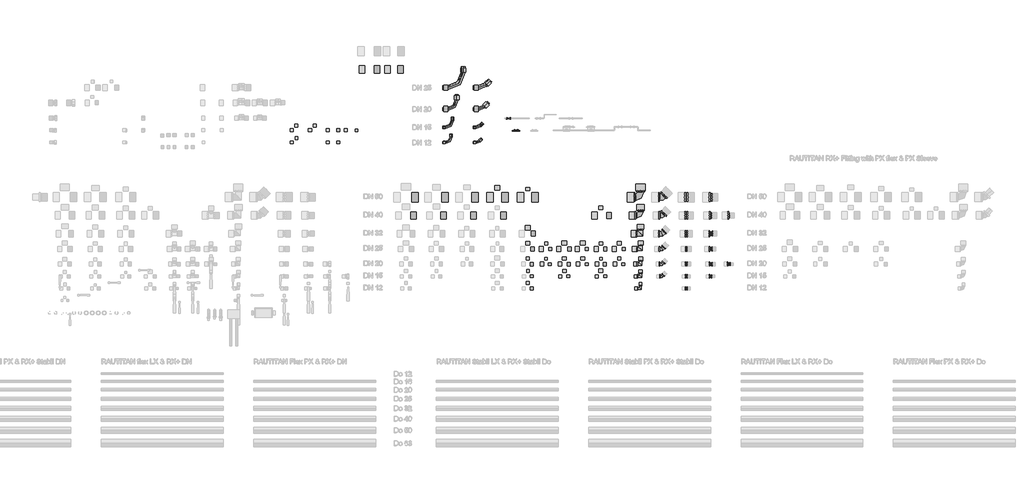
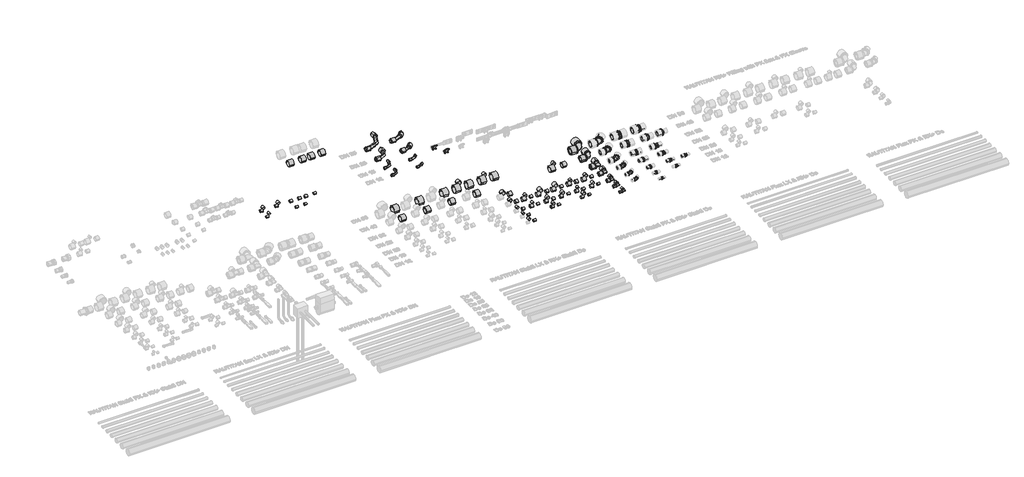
# One storey, part 7 of 18: 136 pipe fittings, 2 proxies.
"""IFC4 building model written with IfcOpenShell, lengths in millimetres."""

from ifc_helpers import new_model, si_unit, origin, place, context, project, spatial, transform, mapped, element, save
from components import mechanical_equipment_31ec48f0, pipe_fitting_37bbe906, pipe_fitting_377b98a1, pipe_fitting_9065546d, pipe_fitting_32b6f711, pipe_fitting_4fda1461, pipe_fitting_dde2d515, pipe_fitting_5ba26716, pipe_fitting_1e73dd1d, pipe_fitting_ffb84d2a, pipe_fitting_3218ae7d, pipe_fitting_89e89fea, pipe_fitting_f353c31d, pipe_fitting_d806b147, pipe_fitting_b47dd0d5, pipe_fitting_906cb7a9, pipe_fitting_aa140833, pipe_fitting_c4648172, pipe_fitting_9e2fe441, pipe_fitting_1db8701a, pipe_fitting_3f58b39c, pipe_fitting_f93f5a85, pipe_fitting_f062a770, pipe_fitting_aa7c71b1, pipe_fitting_97669eb4, pipe_fitting_3aaf8646, pipe_fitting_27d213ee, pipe_fitting_b303c04d, pipe_fitting_8df0c726, pipe_fitting_35c14f72, pipe_fitting_8d5a10cf, pipe_fitting_2a92aeec, pipe_fitting_447afcbf, pipe_fitting_c8656788, pipe_fitting_1c4b8443, pipe_fitting_0a6e0220, pipe_fitting_080a5288, pipe_fitting_495cc192, pipe_fitting_d467e3ce, pipe_fitting_854aaea1, pipe_fitting_f0699bc9, pipe_fitting_9d39727a, pipe_fitting_b4838fa6, pipe_fitting_39403945, pipe_fitting_6415dcd3, dn1_c9c9eba3, dn1_749d9a03, dn1_037c3912, pipe_fitting_a8fbe6ac, pipe_fitting_02b715f6, pipe_fitting_7a5bf8d1, pipe_fitting_d8f8e9d9

model = new_model("IFC4")

# Units and contexts
model_context = context("Model", 3, world=origin())
ifc_project = project(units=[si_unit("LENGTHUNIT", "METRE", prefix="MILLI")], contexts=[model_context])

# Site, building, storey
site = spatial("IfcSite", under=ifc_project)
building = spatial("IfcBuilding", under=site)
storey = spatial("IfcBuildingStorey", under=building, Name="REHAU Starting view", Elevation=0.0)

# Proxies
placement = place(None, origin())
mechanical_equipment_shape = mechanical_equipment_31ec48f0(model_context)
element("IfcBuildingElementProxy", 1, Name="REHAU_RAUTITAN_Insulation plate for brackets : REHAU_RAUTITAN_Insulation plate for brackets", ObjectType="REHAU_RAUTITAN_Insulation plate for brackets : REHAU_RAUTITAN_Insulation plate for brackets", at=placement, inside=storey, context=model_context, shape_type="MappedRepresentation", body=[
    mapped(mechanical_equipment_shape, transform((5902.9241459, 1397.0, 0.0), x_axis=(1.0, 0.0, 0.0), y_axis=(0.0, 1.0, 0.0), z_axis=(0.0, 0.0, 1.0))),
])
element("IfcBuildingElementProxy", 2, Name="REHAU_RAUTITAN_Insulation plate for brackets : REHAU_RAUTITAN_Insulation plate for brackets", ObjectType="REHAU_RAUTITAN_Insulation plate for brackets : REHAU_RAUTITAN_Insulation plate for brackets", at=placement, inside=storey, context=model_context, shape_type="MappedRepresentation", body=[
    mapped(mechanical_equipment_shape, transform((5841.6502917, 1497.0, 0.0), x_axis=(1.0, 0.0, 0.0), y_axis=(0.0, 1.0, 0.0), z_axis=(0.0, 0.0, 1.0))),
])

# Pipe fittings
pipe_fitting_shape = pipe_fitting_37bbe906(model_context)
element("IfcPipeFitting", 3, ObjectType="RAUTITAN_Transition_PX : RTI PX Tr DN", at=placement, inside=storey, context=model_context, shape_type="MappedRepresentation", body=[
    mapped(pipe_fitting_shape, transform((7500.0, 550.0, 0.0), x_axis=(1.0, 0.0, 0.0), y_axis=(0.0, 1.0, 0.0), z_axis=(0.0, 0.0, 1.0))),
])
pipe_fitting_2_shape = pipe_fitting_377b98a1(model_context)
element("IfcPipeFitting", 4, ObjectType="RAUTITAN_Transition_PX : RTI PX Tr DN", at=placement, inside=storey, context=model_context, shape_type="MappedRepresentation", body=[
    mapped(pipe_fitting_2_shape, transform((7500.0, 300.0, 0.0), x_axis=(1.0, 0.0, 0.0), y_axis=(0.0, 1.0, 0.0), z_axis=(0.0, 0.0, 1.0))),
])
pipe_fitting_3_shape = pipe_fitting_9065546d(model_context)
element("IfcPipeFitting", 5, ObjectType="RAUTITAN_Transition_PX : RTI PX Tr DN", at=placement, inside=storey, context=model_context, shape_type="MappedRepresentation", body=[
    mapped(pipe_fitting_3_shape, transform((7500.0, 200.0, 0.0), x_axis=(1.0, 0.0, 0.0), y_axis=(0.0, 1.0, 0.0), z_axis=(0.0, 0.0, 1.0))),
])
pipe_fitting_4_shape = pipe_fitting_32b6f711(model_context)
element("IfcPipeFitting", 6, ObjectType="RAUTITAN_Transition_PX : RTI PX Tr DN", at=placement, inside=storey, context=model_context, shape_type="MappedRepresentation", body=[
    mapped(pipe_fitting_4_shape, transform((7650.0, 300.0, 0.0), x_axis=(1.0, 0.0, 0.0), y_axis=(0.0, 1.0, 0.0), z_axis=(0.0, 0.0, 1.0))),
])
pipe_fitting_5_shape = pipe_fitting_4fda1461(model_context)
element("IfcPipeFitting", 7, ObjectType="RAUTITAN_Union_PX : RTI PX U DN", at=placement, inside=storey, context=model_context, shape_type="MappedRepresentation", body=[
    mapped(pipe_fitting_5_shape, transform((7300.0, 100.0, 0.0), x_axis=(1.0, 0.0, 0.0), y_axis=(0.0, 1.0, 0.0), z_axis=(0.0, 0.0, 1.0))),
])
pipe_fitting_6_shape = pipe_fitting_dde2d515(model_context)
element("IfcPipeFitting", 8, ObjectType="RAUTITAN_Union_PX : RTI PX U DN", at=placement, inside=storey, context=model_context, shape_type="MappedRepresentation", body=[
    mapped(pipe_fitting_6_shape, transform((7300.0, 200.0, 0.0), x_axis=(1.0, 0.0, 0.0), y_axis=(0.0, 1.0, 0.0), z_axis=(0.0, 0.0, 1.0))),
])
pipe_fitting_7_shape = pipe_fitting_5ba26716(model_context)
element("IfcPipeFitting", 9, ObjectType="RAUTITAN_Union_PX : RTI PX U DN", at=placement, inside=storey, context=model_context, shape_type="MappedRepresentation", body=[
    mapped(pipe_fitting_7_shape, transform((7300.0, 300.0, 0.0), x_axis=(1.0, 0.0, 0.0), y_axis=(0.0, 1.0, 0.0), z_axis=(0.0, 0.0, 1.0))),
])
pipe_fitting_8_shape = pipe_fitting_1e73dd1d(model_context)
element("IfcPipeFitting", 10, ObjectType="RAUTITAN_Union_PX : RTI PX U DN", at=placement, inside=storey, context=model_context, shape_type="MappedRepresentation", body=[
    mapped(pipe_fitting_8_shape, transform((7300.0, 425.0, 0.0), x_axis=(1.0, 0.0, 0.0), y_axis=(0.0, 1.0, 0.0), z_axis=(0.0, 0.0, 1.0))),
])
pipe_fitting_9_shape = pipe_fitting_ffb84d2a(model_context)
element("IfcPipeFitting", 11, ObjectType="RAUTITAN_Union_RX+ stabil : RTI RX+ stabil U DN", at=placement, inside=storey, context=model_context, shape_type="MappedRepresentation", body=[
    mapped(pipe_fitting_9_shape, transform((7300.0, 700.0, 0.0), x_axis=(1.0, 0.0, 0.0), y_axis=(0.0, 1.0, 0.0), z_axis=(0.0, 0.0, 1.0))),
])
pipe_fitting_10_shape = pipe_fitting_3218ae7d(model_context)
element("IfcPipeFitting", 12, ObjectType="RAUTITAN_Corner_RX+ stabil : RTI RX+ stabil C DN", at=placement, inside=storey, context=model_context, shape_type="MappedRepresentation", body=[
    mapped(pipe_fitting_10_shape, transform((6925.0, 700.0, 0.0), x_axis=(1.0, 0.0, 0.0), y_axis=(0.0, 1.0, 0.0), z_axis=(0.0, 0.0, 1.0))),
])
pipe_fitting_11_shape = pipe_fitting_89e89fea(model_context)
element("IfcPipeFitting", 13, ObjectType="RAUTITAN_Corner_RX+ stabil : RTI RX+ stabil C DN", at=placement, inside=storey, context=model_context, shape_type="MappedRepresentation", body=[
    mapped(pipe_fitting_11_shape, transform((6925.0, 850.0, 0.0), x_axis=(1.0, 0.0, 0.0), y_axis=(0.0, 1.0, 0.0), z_axis=(0.0, 0.0, 1.0))),
])
pipe_fitting_12_shape = pipe_fitting_f353c31d(model_context)
element("IfcPipeFitting", 14, ObjectType="RAUTITAN_Corner_RX+ stabil : RTI RX+ stabil C DN", at=placement, inside=storey, context=model_context, shape_type="MappedRepresentation", body=[
    mapped(pipe_fitting_12_shape, transform((7100.0, 700.0, 0.0), x_axis=(1.0, 0.0, 0.0), y_axis=(0.0, 1.0, 0.0), z_axis=(0.0, 0.0, 1.0))),
])
pipe_fitting_13_shape = pipe_fitting_d806b147(model_context)
element("IfcPipeFitting", 15, ObjectType="RAUTITAN_Transition_RX+ stabil : RTI RX+ stabil Tr DN", at=placement, inside=storey, context=model_context, shape_type="MappedRepresentation", body=[
    mapped(pipe_fitting_13_shape, transform((7500.0, 700.0, 0.0), x_axis=(1.0, 0.0, 0.0), y_axis=(0.0, 1.0, 0.0), z_axis=(0.0, 0.0, 1.0))),
])
pipe_fitting_14_shape = pipe_fitting_b47dd0d5(model_context)
element("IfcPipeFitting", 16, ObjectType="RAUTITAN_Transition_RX+ stabil : RTI RX+ stabil Tr DN", at=placement, inside=storey, context=model_context, shape_type="MappedRepresentation", body=[
    mapped(pipe_fitting_14_shape, transform((7650.0, 700.0, 0.0), x_axis=(1.0, 0.0, 0.0), y_axis=(0.0, 1.0, 0.0), z_axis=(0.0, 0.0, 1.0))),
])
pipe_fitting_15_shape = pipe_fitting_906cb7a9(model_context)
element("IfcPipeFitting", 17, ObjectType="REHAU_RAUTITAN_Pipe bend former sanitary : REHAU_RAUTITAN_Pipe bend former sanitary", at=placement, inside=storey, context=model_context, shape_type="MappedRepresentation", body=[
    mapped(pipe_fitting_15_shape, transform((5370.0, 1300.0, 0.0), x_axis=(1.0, 0.0, 0.0), y_axis=(0.0, 1.0, 0.0), z_axis=(0.0, 0.0, 1.0))),
])
pipe_fitting_16_shape = pipe_fitting_aa140833(model_context)
element("IfcPipeFitting", 18, ObjectType="REHAU_RAUTITAN_Pipe bend with former : REHAU_RAUTITAN_Pipe bend with former", at=placement, inside=storey, context=model_context, shape_type="MappedRepresentation", body=[
    mapped(pipe_fitting_16_shape, transform((5370.0, 1300.0, 0.0), x_axis=(1.0, 0.0, 0.0), y_axis=(0.0, 1.0, 0.0), z_axis=(0.0, 0.0, 1.0))),
])
pipe_fitting_17_shape = pipe_fitting_c4648172(model_context)
element("IfcPipeFitting", 19, ObjectType="REHAU_RAUTITAN_Pipe bend with former : REHAU_RAUTITAN_Pipe bend with former", at=placement, inside=storey, context=model_context, shape_type="MappedRepresentation", body=[
    mapped(pipe_fitting_17_shape, transform((5382.0, 1425.0, 0.0), x_axis=(1.0, 0.0, 0.0), y_axis=(0.0, 1.0, 0.0), z_axis=(0.0, 0.0, 1.0))),
])
pipe_fitting_18_shape = pipe_fitting_9e2fe441(model_context)
element("IfcPipeFitting", 20, ObjectType="REHAU_RAUTITAN_Pipe bend former sanitary : REHAU_RAUTITAN_Pipe bend former sanitary", at=placement, inside=storey, context=model_context, shape_type="MappedRepresentation", body=[
    mapped(pipe_fitting_18_shape, transform((5382.0, 1425.0, 0.0), x_axis=(1.0, 0.0, 0.0), y_axis=(0.0, 1.0, 0.0), z_axis=(0.0, 0.0, 1.0))),
])
pipe_fitting_19_shape = pipe_fitting_1db8701a(model_context)
element("IfcPipeFitting", 21, ObjectType="REHAU_RAUTITAN_Pipe bend with former : REHAU_RAUTITAN_Pipe bend with former", at=placement, inside=storey, context=model_context, shape_type="MappedRepresentation", body=[
    mapped(pipe_fitting_19_shape, transform((5418.0, 1575.0, 0.0), x_axis=(1.0, 0.0, 0.0), y_axis=(0.0, 1.0, 0.0), z_axis=(0.0, 0.0, 1.0))),
])
pipe_fitting_20_shape = pipe_fitting_3f58b39c(model_context)
element("IfcPipeFitting", 22, ObjectType="REHAU_RAUTITAN_Pipe bend former sanitary : REHAU_RAUTITAN_Pipe bend former sanitary", at=placement, inside=storey, context=model_context, shape_type="MappedRepresentation", body=[
    mapped(pipe_fitting_20_shape, transform((5418.0, 1575.0, 0.0), x_axis=(1.0, 0.0, 0.0), y_axis=(0.0, 1.0, 0.0), z_axis=(0.0, 0.0, 1.0))),
])
pipe_fitting_21_shape = pipe_fitting_f93f5a85(model_context)
element("IfcPipeFitting", 23, ObjectType="REHAU_RAUTITAN_Pipe bend with former : REHAU_RAUTITAN_Pipe bend with former", at=placement, inside=storey, context=model_context, shape_type="MappedRepresentation", body=[
    mapped(pipe_fitting_21_shape, transform((5471.0, 1750.0, 0.0), x_axis=(1.0, 0.0, 0.0), y_axis=(0.0, 1.0, 0.0), z_axis=(0.0, 0.0, 1.0))),
])
pipe_fitting_22_shape = pipe_fitting_f062a770(model_context)
element("IfcPipeFitting", 24, ObjectType="REHAU_RAUTITAN_Pipe bend former sanitary : REHAU_RAUTITAN_Pipe bend former sanitary", at=placement, inside=storey, context=model_context, shape_type="MappedRepresentation", body=[
    mapped(pipe_fitting_22_shape, transform((5471.0, 1750.0, 0.0), x_axis=(1.0, 0.0, 0.0), y_axis=(0.0, 1.0, 0.0), z_axis=(0.0, 0.0, 1.0))),
])
pipe_fitting_23_shape = pipe_fitting_aa7c71b1(model_context)
element("IfcPipeFitting", 25, ObjectType="REHAU_RAUTITAN_Pipe bend with former : REHAU_RAUTITAN_Pipe bend with former", at=placement, inside=storey, context=model_context, shape_type="MappedRepresentation", body=[
    mapped(pipe_fitting_23_shape, transform((5592.0, 1300.0, 0.0), x_axis=(1.0, 0.0, 0.0), y_axis=(0.0, 1.0, 0.0), z_axis=(0.0, 0.0, 1.0))),
])
pipe_fitting_24_shape = pipe_fitting_97669eb4(model_context)
element("IfcPipeFitting", 26, ObjectType="REHAU_RAUTITAN_Pipe bend former sanitary : REHAU_RAUTITAN_Pipe bend former sanitary", at=placement, inside=storey, context=model_context, shape_type="MappedRepresentation", body=[
    mapped(pipe_fitting_24_shape, transform((5592.0, 1300.0, 0.0), x_axis=(1.0, 0.0, 0.0), y_axis=(0.0, 1.0, 0.0), z_axis=(0.0, 0.0, 1.0))),
])
pipe_fitting_25_shape = pipe_fitting_3aaf8646(model_context)
element("IfcPipeFitting", 27, ObjectType="REHAU_RAUTITAN_Pipe bend with former : REHAU_RAUTITAN_Pipe bend with former", at=placement, inside=storey, context=model_context, shape_type="MappedRepresentation", body=[
    mapped(pipe_fitting_25_shape, transform((5597.0, 1425.0, 0.0), x_axis=(1.0, 0.0, 0.0), y_axis=(0.0, 1.0, 0.0), z_axis=(0.0, 0.0, 1.0))),
])
pipe_fitting_26_shape = pipe_fitting_27d213ee(model_context)
element("IfcPipeFitting", 28, ObjectType="REHAU_RAUTITAN_Pipe bend former sanitary : REHAU_RAUTITAN_Pipe bend former sanitary", at=placement, inside=storey, context=model_context, shape_type="MappedRepresentation", body=[
    mapped(pipe_fitting_26_shape, transform((5597.0, 1425.0, 0.0), x_axis=(1.0, 0.0, 0.0), y_axis=(0.0, 1.0, 0.0), z_axis=(0.0, 0.0, 1.0))),
])
pipe_fitting_27_shape = pipe_fitting_b303c04d(model_context)
element("IfcPipeFitting", 29, ObjectType="REHAU_RAUTITAN_Pipe bend with former : REHAU_RAUTITAN_Pipe bend with former", at=placement, inside=storey, context=model_context, shape_type="MappedRepresentation", body=[
    mapped(pipe_fitting_27_shape, transform((5624.0, 1575.0, 0.0), x_axis=(1.0, 0.0, 0.0), y_axis=(0.0, 1.0, 0.0), z_axis=(0.0, 0.0, 1.0))),
])
pipe_fitting_28_shape = pipe_fitting_8df0c726(model_context)
element("IfcPipeFitting", 30, ObjectType="REHAU_RAUTITAN_Pipe bend former sanitary : REHAU_RAUTITAN_Pipe bend former sanitary", at=placement, inside=storey, context=model_context, shape_type="MappedRepresentation", body=[
    mapped(pipe_fitting_28_shape, transform((5624.0, 1575.0, 0.0), x_axis=(1.0, 0.0, 0.0), y_axis=(0.0, 1.0, 0.0), z_axis=(0.0, 0.0, 1.0))),
])
pipe_fitting_29_shape = pipe_fitting_35c14f72(model_context)
element("IfcPipeFitting", 31, ObjectType="REHAU_RAUTITAN_Pipe bend with former : REHAU_RAUTITAN_Pipe bend with former", at=placement, inside=storey, context=model_context, shape_type="MappedRepresentation", body=[
    mapped(pipe_fitting_29_shape, transform((5633.0, 1750.0, 0.0), x_axis=(1.0, 0.0, 0.0), y_axis=(0.0, 1.0, 0.0), z_axis=(0.0, 0.0, 1.0))),
])
pipe_fitting_30_shape = pipe_fitting_8d5a10cf(model_context)
element("IfcPipeFitting", 32, ObjectType="REHAU_RAUTITAN_Pipe bend former sanitary : REHAU_RAUTITAN_Pipe bend former sanitary", at=placement, inside=storey, context=model_context, shape_type="MappedRepresentation", body=[
    mapped(pipe_fitting_30_shape, transform((5633.0, 1750.0, 0.0), x_axis=(1.0, 0.0, 0.0), y_axis=(0.0, 1.0, 0.0), z_axis=(0.0, 0.0, 1.0))),
])
pipe_fitting_31_shape = pipe_fitting_2a92aeec(model_context)
element("IfcPipeFitting", 33, ObjectType="RAUTITAN_Corner_PX : RTI PX C DN", at=placement, inside=storey, context=model_context, shape_type="MappedRepresentation", body=[
    mapped(pipe_fitting_31_shape, transform((6925.0, 550.0, 0.0), x_axis=(1.0, 0.0, 0.0), y_axis=(0.0, 1.0, 0.0), z_axis=(0.0, 0.0, 1.0))),
])
pipe_fitting_32_shape = pipe_fitting_447afcbf(model_context)
element("IfcPipeFitting", 34, ObjectType="RAUTITAN_Corner_RX+ stabil : RTI RX+ stabil C DN", at=placement, inside=storey, context=model_context, shape_type="MappedRepresentation", body=[
    mapped(pipe_fitting_32_shape, transform((7100.0, 850.0, 0.0), x_axis=(1.0, 0.0, 0.0), y_axis=(0.0, 1.0, 0.0), z_axis=(0.0, 0.0, 1.0))),
])
pipe_fitting_33_shape = pipe_fitting_c8656788(model_context)
element("IfcPipeFitting", 35, ObjectType="RAUTITAN_Transition_PX : RTI PX Tr DN", at=placement, inside=storey, context=model_context, shape_type="MappedRepresentation", body=[
    mapped(pipe_fitting_33_shape, transform((7500.0, 425.0, 0.0), x_axis=(1.0, 0.0, 0.0), y_axis=(0.0, 1.0, 0.0), z_axis=(0.0, 0.0, 1.0))),
])
pipe_fitting_34_shape = pipe_fitting_1c4b8443(model_context)
element("IfcPipeFitting", 36, ObjectType="RAUTITAN_Transition_RX+ stabil : RTI RX+ stabil Tr DN", at=placement, inside=storey, context=model_context, shape_type="MappedRepresentation", body=[
    mapped(pipe_fitting_34_shape, transform((7500.0, 850.0, 0.0), x_axis=(1.0, 0.0, 0.0), y_axis=(0.0, 1.0, 0.0), z_axis=(0.0, 0.0, 1.0))),
])
pipe_fitting_35_shape = pipe_fitting_0a6e0220(model_context)
element("IfcPipeFitting", 37, ObjectType="RAUTITAN_Union_PX : RTI PX U DN", at=placement, inside=storey, context=model_context, shape_type="MappedRepresentation", body=[
    mapped(pipe_fitting_35_shape, transform((7300.0, 550.0, 0.0), x_axis=(1.0, 0.0, 0.0), y_axis=(0.0, 1.0, 0.0), z_axis=(0.0, 0.0, 1.0))),
])
pipe_fitting_36_shape = pipe_fitting_080a5288(model_context)
element("IfcPipeFitting", 38, ObjectType="RAUTITAN_Union_RX+ stabil : RTI RX+ stabil U DN", at=placement, inside=storey, context=model_context, shape_type="MappedRepresentation", body=[
    mapped(pipe_fitting_36_shape, transform((7300.0, 850.0, 0.0), x_axis=(1.0, 0.0, 0.0), y_axis=(0.0, 1.0, 0.0), z_axis=(0.0, 0.0, 1.0))),
])
pipe_fitting_37_shape = pipe_fitting_495cc192(model_context)
element("IfcPipeFitting", 39, ObjectType="RAUTITAN_Corner_PX : RTI PX C DN", at=placement, inside=storey, context=model_context, shape_type="MappedRepresentation", body=[
    mapped(pipe_fitting_37_shape, transform((6925.0, 100.0, 0.0), x_axis=(1.0, 0.0, 0.0), y_axis=(0.0, 1.0, 0.0), z_axis=(0.0, 0.0, 1.0))),
])
pipe_fitting_38_shape = pipe_fitting_d467e3ce(model_context)
element("IfcPipeFitting", 40, ObjectType="RAUTITAN_Corner_PX : RTI PX C DN", at=placement, inside=storey, context=model_context, shape_type="MappedRepresentation", body=[
    mapped(pipe_fitting_38_shape, transform((6925.0, 200.0, 0.0), x_axis=(1.0, 0.0, 0.0), y_axis=(0.0, 1.0, 0.0), z_axis=(0.0, 0.0, 1.0))),
])
pipe_fitting_39_shape = pipe_fitting_854aaea1(model_context)
element("IfcPipeFitting", 41, ObjectType="RAUTITAN_Corner_PX : RTI PX C DN", at=placement, inside=storey, context=model_context, shape_type="MappedRepresentation", body=[
    mapped(pipe_fitting_39_shape, transform((6925.0, 300.0, 0.0), x_axis=(1.0, 0.0, 0.0), y_axis=(0.0, 1.0, 0.0), z_axis=(0.0, 0.0, 1.0))),
])
pipe_fitting_40_shape = pipe_fitting_f0699bc9(model_context)
element("IfcPipeFitting", 42, ObjectType="RAUTITAN_Corner_PX : RTI PX C DN", at=placement, inside=storey, context=model_context, shape_type="MappedRepresentation", body=[
    mapped(pipe_fitting_40_shape, transform((6925.0, 425.0, 0.0), x_axis=(1.0, 0.0, 0.0), y_axis=(0.0, 1.0, 0.0), z_axis=(0.0, 0.0, 1.0))),
])
pipe_fitting_41_shape = pipe_fitting_9d39727a(model_context)
element("IfcPipeFitting", 43, ObjectType="RAUTITAN_Corner_PX : RTI PX C DN", at=placement, inside=storey, context=model_context, shape_type="MappedRepresentation", body=[
    mapped(pipe_fitting_41_shape, transform((7100.0, 200.0, 0.0), x_axis=(1.0, 0.0, 0.0), y_axis=(0.0, 1.0, 0.0), z_axis=(0.0, 0.0, 1.0))),
])
pipe_fitting_42_shape = pipe_fitting_b4838fa6(model_context)
element("IfcPipeFitting", 44, ObjectType="RAUTITAN_Corner_PX : RTI PX C DN", at=placement, inside=storey, context=model_context, shape_type="MappedRepresentation", body=[
    mapped(pipe_fitting_42_shape, transform((7100.0, 300.0, 0.0), x_axis=(1.0, 0.0, 0.0), y_axis=(0.0, 1.0, 0.0), z_axis=(0.0, 0.0, 1.0))),
])
pipe_fitting_43_shape = pipe_fitting_39403945(model_context)
element("IfcPipeFitting", 45, ObjectType="RAUTITAN_Corner_PX : RTI PX C DN", at=placement, inside=storey, context=model_context, shape_type="MappedRepresentation", body=[
    mapped(pipe_fitting_43_shape, transform((7100.0, 425.0, 0.0), x_axis=(1.0, 0.0, 0.0), y_axis=(0.0, 1.0, 0.0), z_axis=(0.0, 0.0, 1.0))),
])
pipe_fitting_44_shape = pipe_fitting_6415dcd3(model_context)
element("IfcPipeFitting", 46, ObjectType="RAUTITAN_Corner_PX : RTI PX C DN", at=placement, inside=storey, context=model_context, shape_type="MappedRepresentation", body=[
    mapped(pipe_fitting_44_shape, transform((7100.0, 550.0, 0.0), x_axis=(1.0, 0.0, 0.0), y_axis=(0.0, 1.0, 0.0), z_axis=(0.0, 0.0, 1.0))),
])
dn1_shape = dn1_c9c9eba3(model_context)
element("IfcPipeFitting", 47, ObjectType="Sleeve : PX 7,4", at=placement, inside=storey, context=model_context, shape_type="MappedRepresentation", body=[
    mapped(dn1_shape, transform((6900.0, 100.0, 0.0), x_axis=(-1.0, 0.0, 0.0), y_axis=(0.0, -1.0, 0.0), z_axis=(0.0, 0.0, 1.0))),
])
element("IfcPipeFitting", 48, ObjectType="Sleeve : PX 7,4", at=placement, inside=storey, context=model_context, shape_type="MappedRepresentation", body=[
    mapped(dn1_shape, transform((6925.0, 125.0, 0.0), x_axis=(0.0, 1.0, 0.0), y_axis=(-1.0, 0.0, 0.0), z_axis=(0.0, 0.0, 1.0))),
])
element("IfcPipeFitting", 49, ObjectType="Sleeve : PX 7,4", at=placement, inside=storey, context=model_context, shape_type="MappedRepresentation", body=[
    mapped(dn1_shape, transform((6020.5, 100.0, 0.0), x_axis=(1.0, 0.0, 0.0), y_axis=(0.0, 1.0, 0.0), z_axis=(0.0, 0.0, 1.0))),
])
element("IfcPipeFitting", 50, ObjectType="Sleeve : PX 7,4", at=placement, inside=storey, context=model_context, shape_type="MappedRepresentation", body=[
    mapped(dn1_shape, transform((6000.0, 232.3, 0.0), x_axis=(0.0, 1.0, 0.0), y_axis=(-1.0, 0.0, 0.0), z_axis=(0.0, 0.0, 1.0))),
])
element("IfcPipeFitting", 51, ObjectType="Sleeve : PX 7,4", at=placement, inside=storey, context=model_context, shape_type="MappedRepresentation", body=[
    mapped(dn1_shape, transform((6019.0, 200.0, 0.0), x_axis=(1.0, 0.0, 0.0), y_axis=(0.0, 1.0, 0.0), z_axis=(0.0, 0.0, 1.0))),
])
element("IfcPipeFitting", 52, ObjectType="Sleeve : PX 7,4", at=placement, inside=storey, context=model_context, shape_type="MappedRepresentation", body=[
    mapped(dn1_shape, transform((6150.0, 332.3, 0.0), x_axis=(0.0, 1.0, 0.0), y_axis=(-1.0, 0.0, 0.0), z_axis=(0.0, 0.0, 1.0))),
])
element("IfcPipeFitting", 53, ObjectType="Sleeve : PX 7,4", at=placement, inside=storey, context=model_context, shape_type="MappedRepresentation", body=[
    mapped(dn1_shape, transform((6169.0, 300.0, 0.0), x_axis=(1.0, 0.0, 0.0), y_axis=(0.0, 1.0, 0.0), z_axis=(0.0, 0.0, 1.0))),
])
element("IfcPipeFitting", 54, ObjectType="Sleeve : PX 7,4", at=placement, inside=storey, context=model_context, shape_type="MappedRepresentation", body=[
    mapped(dn1_shape, transform((6320.5, 200.0, 0.0), x_axis=(1.0, 0.0, 0.0), y_axis=(0.0, 1.0, 0.0), z_axis=(0.0, 0.0, 1.0))),
])
element("IfcPipeFitting", 55, ObjectType="Sleeve : PX 7,4", at=placement, inside=storey, context=model_context, shape_type="MappedRepresentation", body=[
    mapped(dn1_shape, transform((6473.0, 300.0, 0.0), x_axis=(1.0, 0.0, 0.0), y_axis=(0.0, 1.0, 0.0), z_axis=(0.0, 0.0, 1.0))),
])
element("IfcPipeFitting", 56, ObjectType="Sleeve : PX 7,4", at=placement, inside=storey, context=model_context, shape_type="MappedRepresentation", body=[
    mapped(dn1_shape, transform((6623.0, 200.0, 0.0), x_axis=(1.0, 0.0, 0.0), y_axis=(0.0, 1.0, 0.0), z_axis=(0.0, 0.0, 1.0))),
])
element("IfcPipeFitting", 57, ObjectType="Sleeve : PX 7,4", at=placement, inside=storey, context=model_context, shape_type="MappedRepresentation", body=[
    mapped(dn1_shape, transform((6600.0, 332.3, 0.0), x_axis=(0.0, 1.0, 0.0), y_axis=(-1.0, 0.0, 0.0), z_axis=(0.0, 0.0, 1.0))),
])
element("IfcPipeFitting", 58, ObjectType="Sleeve : PX 7,4", at=placement, inside=storey, context=model_context, shape_type="MappedRepresentation", body=[
    mapped(dn1_shape, transform((6770.5, 300.0, 0.0), x_axis=(1.0, 0.0, 0.0), y_axis=(0.0, 1.0, 0.0), z_axis=(0.0, 0.0, 1.0))),
])
element("IfcPipeFitting", 59, ObjectType="Sleeve : PX 7,4", at=placement, inside=storey, context=model_context, shape_type="MappedRepresentation", body=[
    mapped(dn1_shape, transform((4431.15, 1300.0, 0.0), x_axis=(1.0, 0.0, 0.0), y_axis=(0.0, 1.0, 0.0), z_axis=(0.0, 0.0, 1.0))),
])
element("IfcPipeFitting", 60, ObjectType="Sleeve : PX 7,4", at=placement, inside=storey, context=model_context, shape_type="MappedRepresentation", body=[
    mapped(dn1_shape, transform((4368.85, 1300.0, 0.0), x_axis=(-1.0, 0.0, 0.0), y_axis=(0.0, -1.0, 0.0), z_axis=(0.0, 0.0, 1.0))),
])
element("IfcPipeFitting", 61, ObjectType="Sleeve : PX 7,4", at=placement, inside=storey, context=model_context, shape_type="MappedRepresentation", body=[
    mapped(dn1_shape, transform((4075.22, 1300.0, 0.0), x_axis=(-1.0, 0.0, 0.0), y_axis=(0.0, -1.0, 0.0), z_axis=(0.0, 0.0, 1.0))),
])
element("IfcPipeFitting", 62, ObjectType="Sleeve : PX 7,4", at=placement, inside=storey, context=model_context, shape_type="MappedRepresentation", body=[
    mapped(dn1_shape, transform((4100.0, 1324.5, 0.0), x_axis=(0.0, 1.0, 0.0), y_axis=(-1.0, 0.0, 0.0), z_axis=(0.0, 0.0, 1.0))),
])
element("IfcPipeFitting", 63, ObjectType="Sleeve : PX 7,4", at=placement, inside=storey, context=model_context, shape_type="MappedRepresentation", body=[
    mapped(dn1_shape, transform((4581.81, 1400.0, 0.0), x_axis=(1.0, 0.0, 0.0), y_axis=(0.0, 1.0, 0.0), z_axis=(0.0, 0.0, 1.0))),
])
dn1_2_shape = dn1_749d9a03(model_context)
element("IfcPipeFitting", 64, ObjectType="Sleeve : PX 7,4", at=placement, inside=storey, context=model_context, shape_type="MappedRepresentation", body=[
    mapped(dn1_2_shape, transform((6897.9, 200.0, 0.0), x_axis=(-1.0, 0.0, 0.0), y_axis=(0.0, -1.0, 0.0), z_axis=(0.0, 0.0, 1.0))),
])
element("IfcPipeFitting", 65, ObjectType="Sleeve : PX 7,4", at=placement, inside=storey, context=model_context, shape_type="MappedRepresentation", body=[
    mapped(dn1_2_shape, transform((6925.0, 227.1, 0.0), x_axis=(0.0, 1.0, 0.0), y_axis=(-1.0, 0.0, 0.0), z_axis=(0.0, 0.0, 1.0))),
])
element("IfcPipeFitting", 66, ObjectType="Sleeve : PX 7,4", at=placement, inside=storey, context=model_context, shape_type="MappedRepresentation", body=[
    mapped(dn1_2_shape, transform((6000.0, 132.3, 0.0), x_axis=(0.0, 1.0, 0.0), y_axis=(-1.0, 0.0, 0.0), z_axis=(0.0, 0.0, 1.0))),
])
element("IfcPipeFitting", 67, ObjectType="Sleeve : PX 7,4", at=placement, inside=storey, context=model_context, shape_type="MappedRepresentation", body=[
    mapped(dn1_2_shape, transform((6000.0, 332.3, 0.0), x_axis=(0.0, 1.0, 0.0), y_axis=(-1.0, 0.0, 0.0), z_axis=(0.0, 0.0, 1.0))),
])
element("IfcPipeFitting", 68, ObjectType="Sleeve : PX 7,4", at=placement, inside=storey, context=model_context, shape_type="MappedRepresentation", body=[
    mapped(dn1_2_shape, transform((6021.1, 300.0, 0.0), x_axis=(1.0, 0.0, 0.0), y_axis=(0.0, 1.0, 0.0), z_axis=(0.0, 0.0, 1.0))),
])
element("IfcPipeFitting", 69, ObjectType="Sleeve : PX 7,4", at=placement, inside=storey, context=model_context, shape_type="MappedRepresentation", body=[
    mapped(dn1_2_shape, transform((6150.0, 457.3, 0.0), x_axis=(0.0, 1.0, 0.0), y_axis=(-1.0, 0.0, 0.0), z_axis=(0.0, 0.0, 1.0))),
])
element("IfcPipeFitting", 70, ObjectType="Sleeve : PX 7,4", at=placement, inside=storey, context=model_context, shape_type="MappedRepresentation", body=[
    mapped(dn1_2_shape, transform((6171.1, 425.0, 0.0), x_axis=(1.0, 0.0, 0.0), y_axis=(0.0, 1.0, 0.0), z_axis=(0.0, 0.0, 1.0))),
])
element("IfcPipeFitting", 71, ObjectType="Sleeve : PX 7,4", at=placement, inside=storey, context=model_context, shape_type="MappedRepresentation", body=[
    mapped(dn1_2_shape, transform((6278.9, 200.0, 0.0), x_axis=(-1.0, 0.0, 0.0), y_axis=(0.0, -1.0, 0.0), z_axis=(0.0, 0.0, 1.0))),
])
element("IfcPipeFitting", 72, ObjectType="Sleeve : PX 7,4", at=placement, inside=storey, context=model_context, shape_type="MappedRepresentation", body=[
    mapped(dn1_2_shape, transform((6300.0, 232.3, 0.0), x_axis=(0.0, 1.0, 0.0), y_axis=(-1.0, 0.0, 0.0), z_axis=(0.0, 0.0, 1.0))),
])
element("IfcPipeFitting", 73, ObjectType="Sleeve : PX 7,4", at=placement, inside=storey, context=model_context, shape_type="MappedRepresentation", body=[
    mapped(dn1_2_shape, transform((6323.6, 300.0, 0.0), x_axis=(1.0, 0.0, 0.0), y_axis=(0.0, 1.0, 0.0), z_axis=(0.0, 0.0, 1.0))),
])
element("IfcPipeFitting", 74, ObjectType="Sleeve : PX 7,4", at=placement, inside=storey, context=model_context, shape_type="MappedRepresentation", body=[
    mapped(dn1_2_shape, transform((6472.6, 425.0, 0.0), x_axis=(1.0, 0.0, 0.0), y_axis=(0.0, 1.0, 0.0), z_axis=(0.0, 0.0, 1.0))),
])
element("IfcPipeFitting", 75, ObjectType="Sleeve : PX 7,4", at=placement, inside=storey, context=model_context, shape_type="MappedRepresentation", body=[
    mapped(dn1_2_shape, transform((6576.4, 200.0, 0.0), x_axis=(-1.0, 0.0, 0.0), y_axis=(0.0, -1.0, 0.0), z_axis=(0.0, 0.0, 1.0))),
])
element("IfcPipeFitting", 76, ObjectType="Sleeve : PX 7,4", at=placement, inside=storey, context=model_context, shape_type="MappedRepresentation", body=[
    mapped(dn1_2_shape, transform((6619.1, 300.0, 0.0), x_axis=(1.0, 0.0, 0.0), y_axis=(0.0, 1.0, 0.0), z_axis=(0.0, 0.0, 1.0))),
])
element("IfcPipeFitting", 77, ObjectType="Sleeve : PX 7,4", at=placement, inside=storey, context=model_context, shape_type="MappedRepresentation", body=[
    mapped(dn1_2_shape, transform((6600.0, 457.3, 0.0), x_axis=(0.0, 1.0, 0.0), y_axis=(-1.0, 0.0, 0.0), z_axis=(0.0, 0.0, 1.0))),
])
element("IfcPipeFitting", 78, ObjectType="Sleeve : PX 7,4", at=placement, inside=storey, context=model_context, shape_type="MappedRepresentation", body=[
    mapped(dn1_2_shape, transform((6750.0, 332.3, 0.0), x_axis=(0.0, 1.0, 0.0), y_axis=(-1.0, 0.0, 0.0), z_axis=(0.0, 0.0, 1.0))),
])
element("IfcPipeFitting", 79, ObjectType="Sleeve : PX 7,4", at=placement, inside=storey, context=model_context, shape_type="MappedRepresentation", body=[
    mapped(dn1_2_shape, transform((6773.6, 425.0, 0.0), x_axis=(1.0, 0.0, 0.0), y_axis=(0.0, 1.0, 0.0), z_axis=(0.0, 0.0, 1.0))),
])
element("IfcPipeFitting", 80, ObjectType="Sleeve : PX 7,4", at=placement, inside=storey, context=model_context, shape_type="MappedRepresentation", body=[
    mapped(dn1_2_shape, transform((4074.85, 1400.0, 0.0), x_axis=(-1.0, 0.0, 0.0), y_axis=(0.0, -1.0, 0.0), z_axis=(0.0, 0.0, 1.0))),
])
element("IfcPipeFitting", 81, ObjectType="Sleeve : PX 7,4", at=placement, inside=storey, context=model_context, shape_type="MappedRepresentation", body=[
    mapped(dn1_2_shape, transform((4100.0, 1425.3, 0.0), x_axis=(0.0, 1.0, 0.0), y_axis=(-1.0, 0.0, 0.0), z_axis=(0.0, 0.0, 1.0))),
])
element("IfcPipeFitting", 82, ObjectType="Sleeve : PX 7,4", at=placement, inside=storey, context=model_context, shape_type="MappedRepresentation", body=[
    mapped(dn1_2_shape, transform((4224.7, 1400.0, 0.0), x_axis=(-1.0, 0.0, 0.0), y_axis=(0.0, -1.0, 0.0), z_axis=(0.0, 0.0, 1.0))),
])
element("IfcPipeFitting", 83, ObjectType="Sleeve : PX 7,4", at=placement, inside=storey, context=model_context, shape_type="MappedRepresentation", body=[
    mapped(dn1_2_shape, transform((4250.0, 1425.3, 0.0), x_axis=(0.0, 1.0, 0.0), y_axis=(-1.0, 0.0, 0.0), z_axis=(0.0, 0.0, 1.0))),
])
element("IfcPipeFitting", 84, ObjectType="Sleeve : PX 7,4", at=placement, inside=storey, context=model_context, shape_type="MappedRepresentation", body=[
    mapped(dn1_2_shape, transform((4518.68, 1400.0, 0.0), x_axis=(-1.0, 0.0, 0.0), y_axis=(0.0, -1.0, 0.0), z_axis=(0.0, 0.0, 1.0))),
])
element("IfcPipeFitting", 85, ObjectType="Sleeve : PX 7,4", at=placement, inside=storey, context=model_context, shape_type="MappedRepresentation", body=[
    mapped(dn1_2_shape, transform((4430.15, 1400.0, 0.0), x_axis=(1.0, 0.0, 0.0), y_axis=(0.0, 1.0, 0.0), z_axis=(0.0, 0.0, 1.0))),
])
element("IfcPipeFitting", 86, ObjectType="Sleeve : PX 7,4", at=placement, inside=storey, context=model_context, shape_type="MappedRepresentation", body=[
    mapped(dn1_2_shape, transform((4369.85, 1400.0, 0.0), x_axis=(-1.0, 0.0, 0.0), y_axis=(0.0, -1.0, 0.0), z_axis=(0.0, 0.0, 1.0))),
])
dn1_3_shape = dn1_037c3912(model_context)
element("IfcPipeFitting", 87, ObjectType="Sleeve : PX 7,4", at=placement, inside=storey, context=model_context, shape_type="MappedRepresentation", body=[
    mapped(dn1_3_shape, transform((6895.2, 300.0, 0.0), x_axis=(-1.0, 0.0, 0.0), y_axis=(0.0, -1.0, 0.0), z_axis=(0.0, 0.0, 1.0))),
])
element("IfcPipeFitting", 88, ObjectType="Sleeve : PX 7,4", at=placement, inside=storey, context=model_context, shape_type="MappedRepresentation", body=[
    mapped(dn1_3_shape, transform((6925.0, 329.8, 0.0), x_axis=(0.0, 1.0, 0.0), y_axis=(-1.0, 0.0, 0.0), z_axis=(0.0, 0.0, 1.0))),
])
element("IfcPipeFitting", 89, ObjectType="Sleeve : PX 7,4", at=placement, inside=storey, context=model_context, shape_type="MappedRepresentation", body=[
    mapped(dn1_3_shape, transform((6000.0, 457.3, 0.0), x_axis=(0.0, 1.0, 0.0), y_axis=(-1.0, 0.0, 0.0), z_axis=(0.0, 0.0, 1.0))),
])
element("IfcPipeFitting", 90, ObjectType="Sleeve : PX 7,4", at=placement, inside=storey, context=model_context, shape_type="MappedRepresentation", body=[
    mapped(dn1_3_shape, transform((6023.8, 425.0, 0.0), x_axis=(1.0, 0.0, 0.0), y_axis=(0.0, 1.0, 0.0), z_axis=(0.0, 0.0, 1.0))),
])
element("IfcPipeFitting", 91, ObjectType="Sleeve : PX 7,4", at=placement, inside=storey, context=model_context, shape_type="MappedRepresentation", body=[
    mapped(dn1_3_shape, transform((6130.7, 300.0, 0.0), x_axis=(-1.0, 0.0, 0.0), y_axis=(0.0, -1.0, 0.0), z_axis=(0.0, 0.0, 1.0))),
])
element("IfcPipeFitting", 92, ObjectType="Sleeve : PX 7,4", at=placement, inside=storey, context=model_context, shape_type="MappedRepresentation", body=[
    mapped(dn1_3_shape, transform((6276.2, 300.0, 0.0), x_axis=(-1.0, 0.0, 0.0), y_axis=(0.0, -1.0, 0.0), z_axis=(0.0, 0.0, 1.0))),
])
element("IfcPipeFitting", 93, ObjectType="Sleeve : PX 7,4", at=placement, inside=storey, context=model_context, shape_type="MappedRepresentation", body=[
    mapped(dn1_3_shape, transform((6300.0, 332.3, 0.0), x_axis=(0.0, 1.0, 0.0), y_axis=(-1.0, 0.0, 0.0), z_axis=(0.0, 0.0, 1.0))),
])
element("IfcPipeFitting", 94, ObjectType="Sleeve : PX 7,4", at=placement, inside=storey, context=model_context, shape_type="MappedRepresentation", body=[
    mapped(dn1_3_shape, transform((6327.3, 425.0, 0.0), x_axis=(1.0, 0.0, 0.0), y_axis=(0.0, 1.0, 0.0), z_axis=(0.0, 0.0, 1.0))),
])
element("IfcPipeFitting", 95, ObjectType="Sleeve : PX 7,4", at=placement, inside=storey, context=model_context, shape_type="MappedRepresentation", body=[
    mapped(dn1_3_shape, transform((6426.2, 300.0, 0.0), x_axis=(-1.0, 0.0, 0.0), y_axis=(0.0, -1.0, 0.0), z_axis=(0.0, 0.0, 1.0))),
])
element("IfcPipeFitting", 96, ObjectType="Sleeve : PX 7,4", at=placement, inside=storey, context=model_context, shape_type="MappedRepresentation", body=[
    mapped(dn1_3_shape, transform((6450.0, 332.3, 0.0), x_axis=(0.0, 1.0, 0.0), y_axis=(-1.0, 0.0, 0.0), z_axis=(0.0, 0.0, 1.0))),
])
element("IfcPipeFitting", 97, ObjectType="Sleeve : PX 7,4", at=placement, inside=storey, context=model_context, shape_type="MappedRepresentation", body=[
    mapped(dn1_3_shape, transform((6600.0, 232.3, 0.0), x_axis=(0.0, 1.0, 0.0), y_axis=(-1.0, 0.0, 0.0), z_axis=(0.0, 0.0, 1.0))),
])
element("IfcPipeFitting", 98, ObjectType="Sleeve : PX 7,4", at=placement, inside=storey, context=model_context, shape_type="MappedRepresentation", body=[
    mapped(dn1_3_shape, transform((6580.7, 300.0, 0.0), x_axis=(-1.0, 0.0, 0.0), y_axis=(0.0, -1.0, 0.0), z_axis=(0.0, 0.0, 1.0))),
])
element("IfcPipeFitting", 99, ObjectType="Sleeve : PX 7,4", at=placement, inside=storey, context=model_context, shape_type="MappedRepresentation", body=[
    mapped(dn1_3_shape, transform((6621.3, 425.0, 0.0), x_axis=(1.0, 0.0, 0.0), y_axis=(0.0, 1.0, 0.0), z_axis=(0.0, 0.0, 1.0))),
])
element("IfcPipeFitting", 100, ObjectType="Sleeve : PX 7,4", at=placement, inside=storey, context=model_context, shape_type="MappedRepresentation", body=[
    mapped(dn1_3_shape, transform((6728.7, 300.0, 0.0), x_axis=(-1.0, 0.0, 0.0), y_axis=(0.0, -1.0, 0.0), z_axis=(0.0, 0.0, 1.0))),
])
element("IfcPipeFitting", 101, ObjectType="Sleeve : PX 7,4", at=placement, inside=storey, context=model_context, shape_type="MappedRepresentation", body=[
    mapped(dn1_3_shape, transform((6750.0, 457.3, 0.0), x_axis=(0.0, 1.0, 0.0), y_axis=(-1.0, 0.0, 0.0), z_axis=(0.0, 0.0, 1.0))),
])
element("IfcPipeFitting", 102, ObjectType="Sleeve : PX 7,4", at=placement, inside=storey, context=model_context, shape_type="MappedRepresentation", body=[
    mapped(dn1_3_shape, transform((6000.0, 903.0, 0.0), x_axis=(0.0, 1.0, 0.0), y_axis=(-1.0, 0.0, 0.0), z_axis=(0.0, 0.0, 1.0))),
])
element("IfcPipeFitting", 103, ObjectType="Sleeve : PX 7,4", at=placement, inside=storey, context=model_context, shape_type="MappedRepresentation", body=[
    mapped(dn1_3_shape, transform((6600.0, 749.0, 0.0), x_axis=(0.0, 1.0, 0.0), y_axis=(-1.0, 0.0, 0.0), z_axis=(0.0, 0.0, 1.0))),
])
pipe_fitting_45_shape = pipe_fitting_a8fbe6ac(model_context)
element("IfcPipeFitting", 104, ObjectType="Sleeve : PX 7,4", at=placement, inside=storey, context=model_context, shape_type="MappedRepresentation", body=[
    mapped(pipe_fitting_45_shape, transform((6892.0, 425.0, 0.0), x_axis=(-1.0, 0.0, 0.0), y_axis=(0.0, -1.0, 0.0), z_axis=(0.0, 0.0, 1.0))),
])
element("IfcPipeFitting", 105, ObjectType="Sleeve : PX 7,4", at=placement, inside=storey, context=model_context, shape_type="MappedRepresentation", body=[
    mapped(pipe_fitting_45_shape, transform((6925.0, 458.0, 0.0), x_axis=(0.0, 1.0, 0.0), y_axis=(-1.0, 0.0, 0.0), z_axis=(0.0, 0.0, 1.0))),
])
element("IfcPipeFitting", 106, ObjectType="Sleeve : PX 7,4", at=placement, inside=storey, context=model_context, shape_type="MappedRepresentation", body=[
    mapped(pipe_fitting_45_shape, transform((6000.0, 582.3, 0.0), x_axis=(0.0, 1.0, 0.0), y_axis=(-1.0, 0.0, 0.0), z_axis=(0.0, 0.0, 1.0))),
])
element("IfcPipeFitting", 107, ObjectType="Sleeve : PX 7,4", at=placement, inside=storey, context=model_context, shape_type="MappedRepresentation", body=[
    mapped(pipe_fitting_45_shape, transform((6028.0, 550.0, 0.0), x_axis=(1.0, 0.0, 0.0), y_axis=(0.0, 1.0, 0.0), z_axis=(0.0, 0.0, 1.0))),
])
element("IfcPipeFitting", 108, ObjectType="Sleeve : PX 7,4", at=placement, inside=storey, context=model_context, shape_type="MappedRepresentation", body=[
    mapped(pipe_fitting_45_shape, transform((6128.0, 425.0, 0.0), x_axis=(-1.0, 0.0, 0.0), y_axis=(0.0, -1.0, 0.0), z_axis=(0.0, 0.0, 1.0))),
])
element("IfcPipeFitting", 109, ObjectType="Sleeve : PX 7,4", at=placement, inside=storey, context=model_context, shape_type="MappedRepresentation", body=[
    mapped(pipe_fitting_45_shape, transform((6272.0, 425.0, 0.0), x_axis=(-1.0, 0.0, 0.0), y_axis=(0.0, -1.0, 0.0), z_axis=(0.0, 0.0, 1.0))),
])
element("IfcPipeFitting", 110, ObjectType="Sleeve : PX 7,4", at=placement, inside=storey, context=model_context, shape_type="MappedRepresentation", body=[
    mapped(pipe_fitting_45_shape, transform((6300.0, 457.3, 0.0), x_axis=(0.0, 1.0, 0.0), y_axis=(-1.0, 0.0, 0.0), z_axis=(0.0, 0.0, 1.0))),
])
element("IfcPipeFitting", 111, ObjectType="Sleeve : PX 7,4", at=placement, inside=storey, context=model_context, shape_type="MappedRepresentation", body=[
    mapped(pipe_fitting_45_shape, transform((6422.0, 425.0, 0.0), x_axis=(-1.0, 0.0, 0.0), y_axis=(0.0, -1.0, 0.0), z_axis=(0.0, 0.0, 1.0))),
])
element("IfcPipeFitting", 112, ObjectType="Sleeve : PX 7,4", at=placement, inside=storey, context=model_context, shape_type="MappedRepresentation", body=[
    mapped(pipe_fitting_45_shape, transform((6450.0, 457.3, 0.0), x_axis=(0.0, 1.0, 0.0), y_axis=(-1.0, 0.0, 0.0), z_axis=(0.0, 0.0, 1.0))),
])
element("IfcPipeFitting", 113, ObjectType="Sleeve : PX 7,4", at=placement, inside=storey, context=model_context, shape_type="MappedRepresentation", body=[
    mapped(pipe_fitting_45_shape, transform((6578.0, 425.0, 0.0), x_axis=(-1.0, 0.0, 0.0), y_axis=(0.0, -1.0, 0.0), z_axis=(0.0, 0.0, 1.0))),
])
element("IfcPipeFitting", 114, ObjectType="Sleeve : PX 7,4", at=placement, inside=storey, context=model_context, shape_type="MappedRepresentation", body=[
    mapped(pipe_fitting_45_shape, transform((6725.5, 425.0, 0.0), x_axis=(-1.0, 0.0, 0.0), y_axis=(0.0, -1.0, 0.0), z_axis=(0.0, 0.0, 1.0))),
])
element("IfcPipeFitting", 115, ObjectType="Sleeve : PX 7,4", at=placement, inside=storey, context=model_context, shape_type="MappedRepresentation", body=[
    mapped(pipe_fitting_45_shape, transform((5750.0, 910.0, 0.0), x_axis=(0.0, 1.0, 0.0), y_axis=(-1.0, 0.0, 0.0), z_axis=(0.0, 0.0, 1.0))),
])
pipe_fitting_46_shape = pipe_fitting_02b715f6(model_context)
element("IfcPipeFitting", 116, ObjectType="Sleeve : PX 7,4", at=placement, inside=storey, context=model_context, shape_type="MappedRepresentation", body=[
    mapped(pipe_fitting_46_shape, transform((6878.5, 700.0, 0.0), x_axis=(-1.0, 0.0, 0.0), y_axis=(0.0, -1.0, 0.0), z_axis=(0.0, 0.0, 1.0))),
])
element("IfcPipeFitting", 117, ObjectType="Sleeve : PX 7,4", at=placement, inside=storey, context=model_context, shape_type="MappedRepresentation", body=[
    mapped(pipe_fitting_46_shape, transform((6925.0, 746.5, 0.0), x_axis=(0.0, 1.0, 0.0), y_axis=(-1.0, 0.0, 0.0), z_axis=(0.0, 0.0, 1.0))),
])
element("IfcPipeFitting", 118, ObjectType="Sleeve : PX 7,4", at=placement, inside=storey, context=model_context, shape_type="MappedRepresentation", body=[
    mapped(pipe_fitting_46_shape, transform((6571.0, 700.0, 0.0), x_axis=(-1.0, 0.0, 0.0), y_axis=(0.0, -1.0, 0.0), z_axis=(0.0, 0.0, 1.0))),
])
element("IfcPipeFitting", 119, ObjectType="Sleeve : PX 7,4", at=placement, inside=storey, context=model_context, shape_type="MappedRepresentation", body=[
    mapped(pipe_fitting_46_shape, transform((5040.0, 700.0, 0.0), x_axis=(1.0, 0.0, 0.0), y_axis=(0.0, 1.0, 0.0), z_axis=(0.0, 0.0, 1.0))),
])
element("IfcPipeFitting", 120, ObjectType="Sleeve : PX 7,4", at=placement, inside=storey, context=model_context, shape_type="MappedRepresentation", body=[
    mapped(pipe_fitting_46_shape, transform((5286.0, 700.0, 0.0), x_axis=(1.0, 0.0, 0.0), y_axis=(0.0, 1.0, 0.0), z_axis=(0.0, 0.0, 1.0))),
])
element("IfcPipeFitting", 121, ObjectType="Sleeve : PX 7,4", at=placement, inside=storey, context=model_context, shape_type="MappedRepresentation", body=[
    mapped(pipe_fitting_46_shape, transform((5532.0, 700.0, 0.0), x_axis=(1.0, 0.0, 0.0), y_axis=(0.0, 1.0, 0.0), z_axis=(0.0, 0.0, 1.0))),
])
element("IfcPipeFitting", 122, ObjectType="Sleeve : PX 7,4", at=placement, inside=storey, context=model_context, shape_type="MappedRepresentation", body=[
    mapped(pipe_fitting_46_shape, transform((5779.0, 700.0, 0.0), x_axis=(1.0, 0.0, 0.0), y_axis=(0.0, 1.0, 0.0), z_axis=(0.0, 0.0, 1.0))),
])
element("IfcPipeFitting", 123, ObjectType="Sleeve : PX 7,4", at=placement, inside=storey, context=model_context, shape_type="MappedRepresentation", body=[
    mapped(pipe_fitting_46_shape, transform((4662.0, 1900.0, 0.0), x_axis=(-1.0, 0.0, 0.0), y_axis=(0.0, -1.0, 0.0), z_axis=(0.0, 0.0, 1.0))),
])
element("IfcPipeFitting", 124, ObjectType="Sleeve : PX 7,4", at=placement, inside=storey, context=model_context, shape_type="MappedRepresentation", body=[
    mapped(pipe_fitting_46_shape, transform((4738.0, 1900.0, 0.0), x_axis=(1.0, 0.0, 0.0), y_axis=(0.0, 1.0, 0.0), z_axis=(0.0, 0.0, 1.0))),
])
element("IfcPipeFitting", 125, ObjectType="Sleeve : PX 7,4", at=placement, inside=storey, context=model_context, shape_type="MappedRepresentation", body=[
    mapped(pipe_fitting_46_shape, transform((4869.5, 1900.0, 0.0), x_axis=(-1.0, 0.0, 0.0), y_axis=(0.0, -1.0, 0.0), z_axis=(0.0, 0.0, 1.0))),
])
element("IfcPipeFitting", 126, ObjectType="Sleeve : PX 7,4", at=placement, inside=storey, context=model_context, shape_type="MappedRepresentation", body=[
    mapped(pipe_fitting_46_shape, transform((4930.5, 1900.0, 0.0), x_axis=(1.0, 0.0, 0.0), y_axis=(0.0, 1.0, 0.0), z_axis=(0.0, 0.0, 1.0))),
])
pipe_fitting_47_shape = pipe_fitting_7a5bf8d1(model_context)
element("IfcPipeFitting", 127, ObjectType="Sleeve : PX 7,4", at=placement, inside=storey, context=model_context, shape_type="MappedRepresentation", body=[
    mapped(pipe_fitting_47_shape, transform((6869.4, 850.0, 0.0), x_axis=(-1.0, 0.0, 0.0), y_axis=(0.0, -1.0, 0.0), z_axis=(0.0, 0.0, 1.0))),
])
element("IfcPipeFitting", 128, ObjectType="Sleeve : PX 7,4", at=placement, inside=storey, context=model_context, shape_type="MappedRepresentation", body=[
    mapped(pipe_fitting_47_shape, transform((6925.0, 905.6, 0.0), x_axis=(0.0, 1.0, 0.0), y_axis=(-1.0, 0.0, 0.0), z_axis=(0.0, 0.0, 1.0))),
])
element("IfcPipeFitting", 129, ObjectType="Sleeve : PX 7,4", at=placement, inside=storey, context=model_context, shape_type="MappedRepresentation", body=[
    mapped(pipe_fitting_47_shape, transform((5715.0, 850.0, 0.0), x_axis=(-1.0, 0.0, 0.0), y_axis=(0.0, -1.0, 0.0), z_axis=(0.0, 0.0, 1.0))),
])
element("IfcPipeFitting", 130, ObjectType="Sleeve : PX 7,4", at=placement, inside=storey, context=model_context, shape_type="MappedRepresentation", body=[
    mapped(pipe_fitting_47_shape, transform((5966.0, 850.0, 0.0), x_axis=(-1.0, 0.0, 0.0), y_axis=(0.0, -1.0, 0.0), z_axis=(0.0, 0.0, 1.0))),
])
element("IfcPipeFitting", 131, ObjectType="Sleeve : PX 7,4", at=placement, inside=storey, context=model_context, shape_type="MappedRepresentation", body=[
    mapped(pipe_fitting_47_shape, transform((5049.0, 850.0, 0.0), x_axis=(1.0, 0.0, 0.0), y_axis=(0.0, 1.0, 0.0), z_axis=(0.0, 0.0, 1.0))),
])
element("IfcPipeFitting", 132, ObjectType="Sleeve : PX 7,4", at=placement, inside=storey, context=model_context, shape_type="MappedRepresentation", body=[
    mapped(pipe_fitting_47_shape, transform((5293.0, 850.0, 0.0), x_axis=(1.0, 0.0, 0.0), y_axis=(0.0, 1.0, 0.0), z_axis=(0.0, 0.0, 1.0))),
])
element("IfcPipeFitting", 133, ObjectType="Sleeve : PX 7,4", at=placement, inside=storey, context=model_context, shape_type="MappedRepresentation", body=[
    mapped(pipe_fitting_47_shape, transform((5538.0, 850.0, 0.0), x_axis=(1.0, 0.0, 0.0), y_axis=(0.0, 1.0, 0.0), z_axis=(0.0, 0.0, 1.0))),
])
element("IfcPipeFitting", 134, ObjectType="Sleeve : PX 7,4", at=placement, inside=storey, context=model_context, shape_type="MappedRepresentation", body=[
    mapped(pipe_fitting_47_shape, transform((5785.0, 850.0, 0.0), x_axis=(1.0, 0.0, 0.0), y_axis=(0.0, 1.0, 0.0), z_axis=(0.0, 0.0, 1.0))),
])
element("IfcPipeFitting", 135, ObjectType="Sleeve : PX 7,4", at=placement, inside=storey, context=model_context, shape_type="MappedRepresentation", body=[
    mapped(pipe_fitting_47_shape, transform((6034.0, 850.0, 0.0), x_axis=(1.0, 0.0, 0.0), y_axis=(0.0, 1.0, 0.0), z_axis=(0.0, 0.0, 1.0))),
])
pipe_fitting_48_shape = pipe_fitting_d8f8e9d9(model_context)
element("IfcPipeFitting", 136, ObjectType="Sleeve : PX 7,4", at=placement, inside=storey, context=model_context, shape_type="MappedRepresentation", body=[
    mapped(pipe_fitting_48_shape, transform((6887.0, 550.0, 0.0), x_axis=(-1.0, 0.0, 0.0), y_axis=(0.0, -1.0, 0.0), z_axis=(0.0, 0.0, 1.0))),
])
element("IfcPipeFitting", 137, ObjectType="Sleeve : PX 7,4", at=placement, inside=storey, context=model_context, shape_type="MappedRepresentation", body=[
    mapped(pipe_fitting_48_shape, transform((6925.0, 588.0, 0.0), x_axis=(0.0, 1.0, 0.0), y_axis=(-1.0, 0.0, 0.0), z_axis=(0.0, 0.0, 1.0))),
])
element("IfcPipeFitting", 138, ObjectType="Sleeve : PX 7,4", at=placement, inside=storey, context=model_context, shape_type="MappedRepresentation", body=[
    mapped(pipe_fitting_48_shape, transform((6648.0, 700.0, 0.0), x_axis=(1.0, 0.0, 0.0), y_axis=(0.0, 1.0, 0.0), z_axis=(0.0, 0.0, 1.0))),
])

save(model, "model.ifc")
